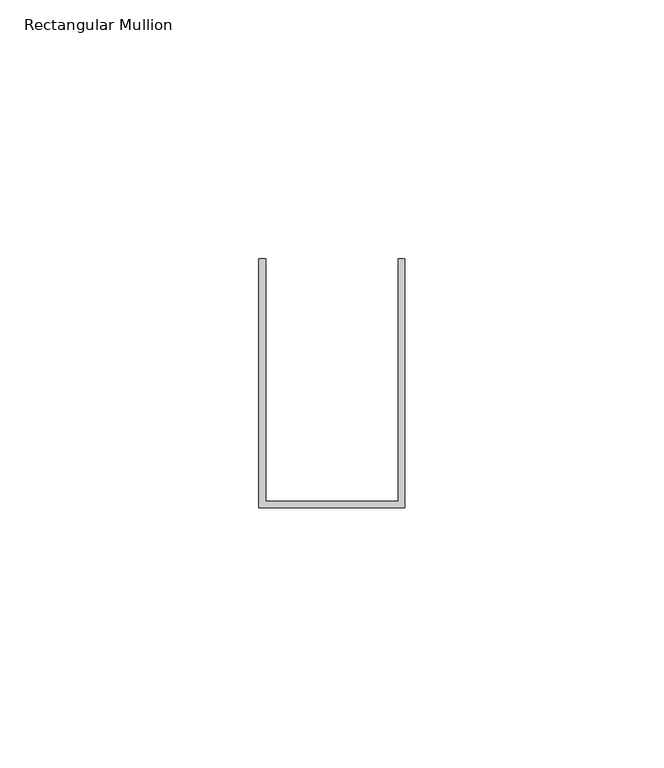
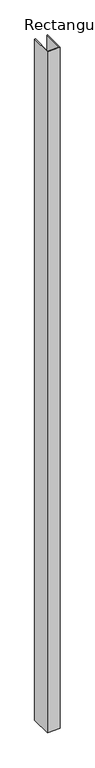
"""IFC4 building model written with IfcOpenShell, lengths in millimetres: member geometry, Rectangular Mullion : Danpal_NM_InetrnalV-Mullion."""

from ifc_helpers import new_model, si_unit, frame, origin, place, context, project, spatial, polyline, outline, extrude, source, transform, mapped, element, save


def rectangular_mullion_2cd8be2a(model_context):
    return source(origin(), model_context, "Body", "SweptSolid", [
        extrude(outline(polyline([(12.3125928, -60.8367315), (12.3125928, -14.0044958), (13.6380334, -14.0044958), (13.6380334, -62.1621721), (-14.6380334, -62.1621721), (-14.6380334, -14.0043036), (-13.3125928, -14.0043433), (-13.3125928, -60.8367315), (12.3125928, -60.8367315)])), frame((0.0, 0.0, -1589.047587), z_axis=(0.0, 0.0, 1.0), x_axis=(1.0, 0.0, 0.0)), (0.0, 0.0, 1.0), 1589.047587),
    ])


if __name__ == "__main__":
    model = new_model("IFC4")
    model_context = context("Model", 3, world=origin())
    ifc_project = project(units=[si_unit("LENGTHUNIT", "METRE", prefix="MILLI")], contexts=[model_context])
    site = spatial("IfcSite", under=ifc_project)
    building = spatial("IfcBuilding", under=site)
    placement = place(None, origin())
    rectangular_mullion_shape = rectangular_mullion_2cd8be2a(model_context)
    element("IfcMember", 1, ObjectType="Rectangular Mullion : Danpal_NM_InetrnalV-Mullion", at=placement, inside=building, context=model_context, shape_type="MappedRepresentation", body=[
        mapped(rectangular_mullion_shape, transform((0.0, 0.0, 0.0), x_axis=(1.0, 0.0, 0.0), y_axis=(0.0, 1.0, 0.0), z_axis=(0.0, 0.0, 1.0))),
    ])
    save(model, "model.ifc")
